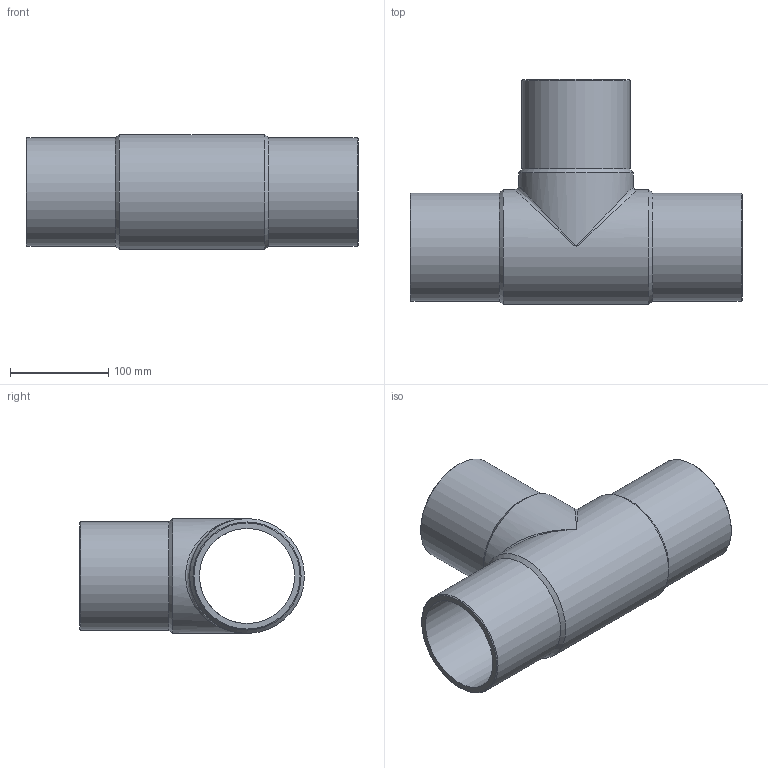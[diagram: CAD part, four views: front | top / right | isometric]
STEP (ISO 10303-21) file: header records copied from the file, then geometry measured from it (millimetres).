
FILE_DESCRIPTION(/* description */ ('Unknown'),/* implementation_level */ '2;1');
FILE_NAME(/* name */ 'TP110B',/* time_stamp */ '2021-08-13T12:43:45+02:00',/* author */ ('Unknown'),/* organization */ ('Unknown'),/* preprocessor_version */ 'ST-DEVELOPER v16.7',/* originating_system */ 'Solid Edge',/* authorisation */ 'Unknown');
FILE_SCHEMA (('AUTOMOTIVE_DESIGN {1 0 10303 214 3 1 1}'));
Length unit declared in the file: millimetre
Products named in the file (1): TP110B
Bounding box: 338 x 229 x 117 mm (x, y, z)
Volume: 1145003.8 mm3; surface area: 296276 mm2
Topology: 1 solids, 1 shells, 18 faces, 44 edges, 23 vertices
Faces by surface type: cylinder 7, cone 6, plane 3, bspline 2
Full cylindrical faces by diameter (mm): 96.8 x2, 110 x3, 117 x2
Entity records: 516 total; most frequent: CARTESIAN_POINT 159, DIRECTION 76, ORIENTED_EDGE 42, AXIS2_PLACEMENT_3D 38, EDGE_LOOP 36, FACE_BOUND 36, EDGE_CURVE 21, VERTEX_POINT 19
